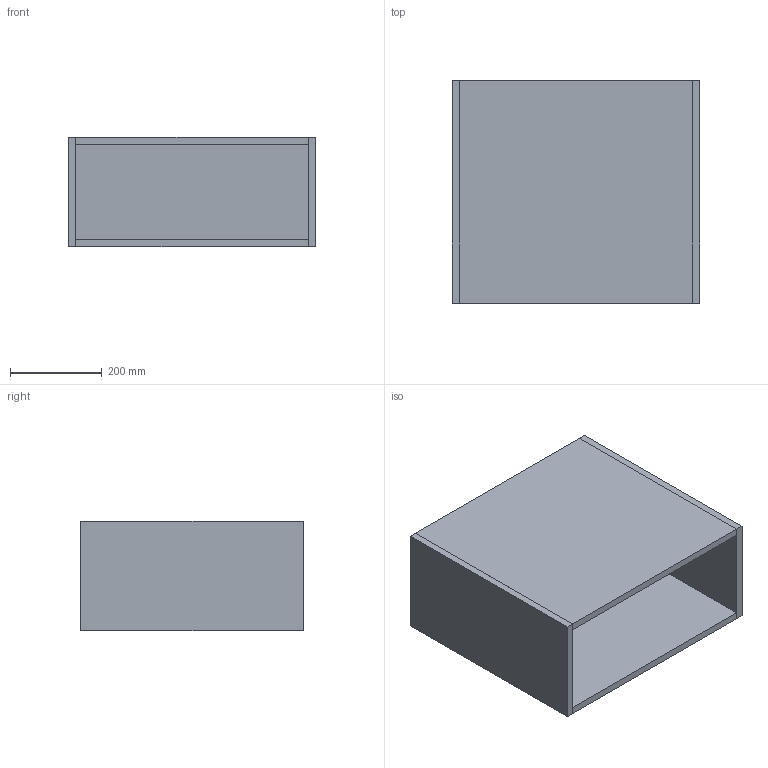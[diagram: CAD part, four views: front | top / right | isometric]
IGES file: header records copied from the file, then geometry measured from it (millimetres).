
Start section: Data from Parasolid IGES Translator 19.0.9, Copyright(c) 2006 Siemens PL M Software. All Rights Reserved.
Global section: file name: noorth-SI-H 24 D 51 W 54_8324.igs; native system: By Siemens PLM Incorporated; preprocessor: XPlus GENERIC/IGES 19.0.9; author: Noname; organization: Noname; date: 20200530.121620; units: metre
Bounding box: 540.01 x 486.06 x 240 mm (x, y, z)
Volume: 11934298.1 mm3; surface area: 1779506.6 mm2
Topology: 5 solids, 5 shells, 30 faces, 60 edges, 40 vertices
Faces by surface type: plane 30
